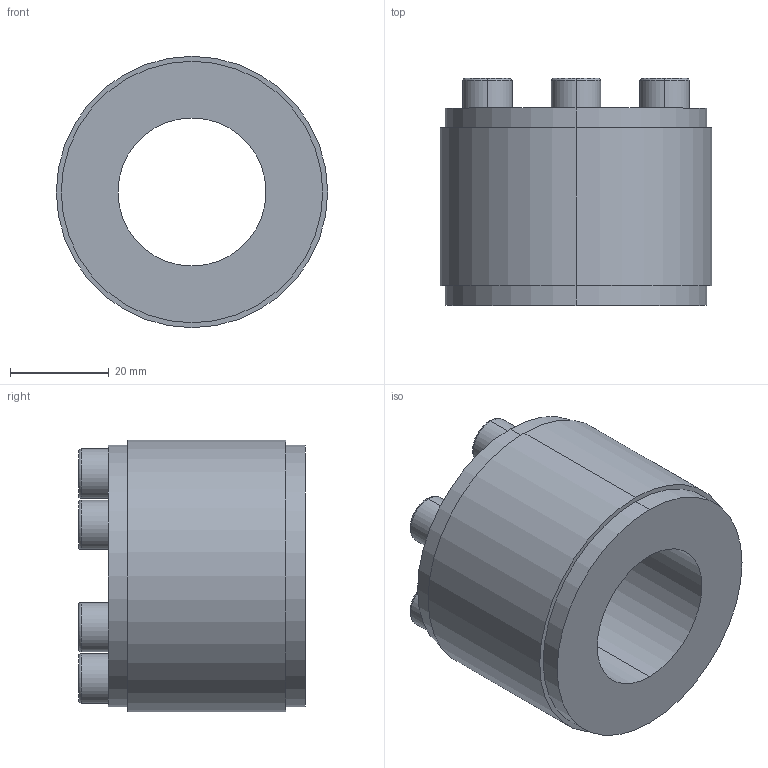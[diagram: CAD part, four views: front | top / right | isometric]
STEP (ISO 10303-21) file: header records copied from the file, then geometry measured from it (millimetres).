
FILE_DESCRIPTION (( 'STEP AP203' ), '1' );
FILE_NAME ('PL-D1 30-55.STEP', '2021-10-22T08:53:09', ( '' ), ( '' ), 'SwSTEP 2.0', 'SolidWorks 2018', '' );
FILE_SCHEMA (( 'CONFIG_CONTROL_DESIGN' ));
Length unit declared in the file: millimetre
Products named in the file (1): PL-D1 30-55
Bounding box: 55 x 46 x 55 mm (x, y, z)
Volume: 67829.5 mm3; surface area: 15370.7 mm2
Topology: 1 solids, 1 shells, 84 faces, 192 edges, 124 vertices
Faces by surface type: plane 52, cylinder 20, torus 12
Entity records: 2445 total; most frequent: DIRECTION 426, CARTESIAN_POINT 401, ORIENTED_EDGE 384, EDGE_CURVE 192, AXIS2_PLACEMENT_3D 149, VECTOR 128, LINE 128, VERTEX_POINT 124
